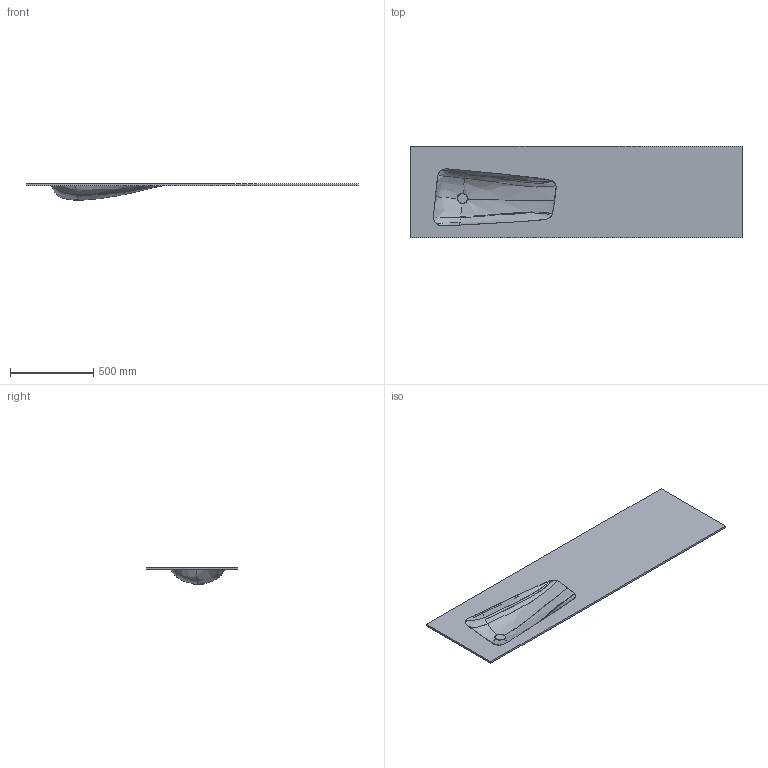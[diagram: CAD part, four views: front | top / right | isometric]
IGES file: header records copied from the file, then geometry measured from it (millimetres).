
Start section:  Autodesk Design for Windows version 2010 IGES version 5.3  Autodesk Design for Windows version 2010 IGES version 5.3
Global section: file name: D:\Desktop\GIOVANNI\SCHEDE PRODOTTO\PIANI LAVABO\PORTOFINO\3D\MOMA DESIGN_PIANI LAVABO_PORTOFINO MODULE.igs; native system: Rhinoceros ( Jan 17 2018 ); preprocessor: Trout Lake IGES 012 Jan 17 2018; date: 230606.160712; units: millimetre
Bounding box: 2000 x 550 x 100.11 mm (x, y, z)
Surface area: 2123105.1 mm2 (no closed solid volume)
Topology: 0 solids, 0 shells, 26 faces, 293 edges, 292 vertices
Faces by surface type: bspline 26
